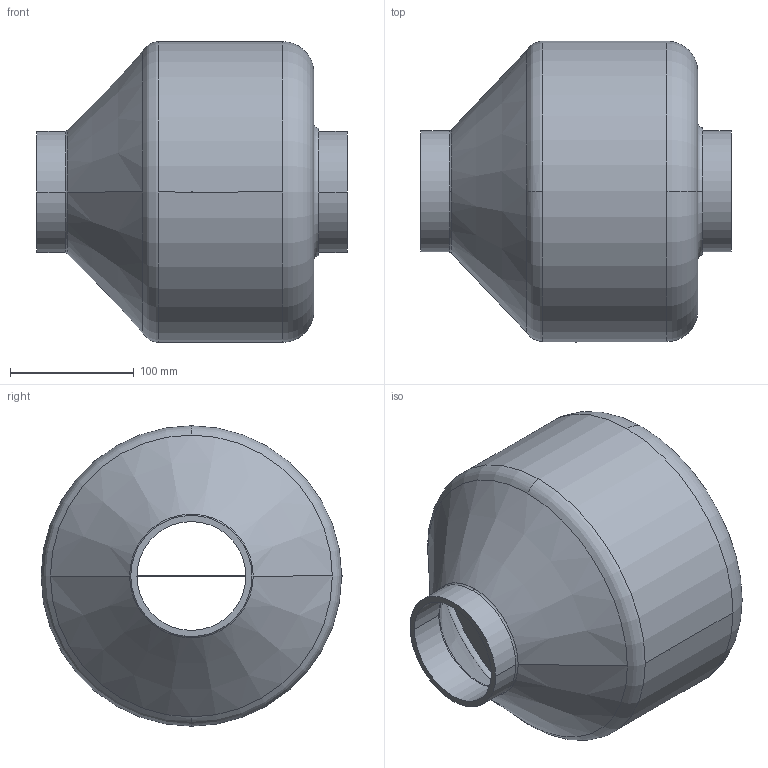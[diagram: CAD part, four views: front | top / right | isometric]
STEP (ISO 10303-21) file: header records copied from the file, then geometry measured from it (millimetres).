
FILE_DESCRIPTION(('STEP AP214'),'1');
FILE_NAME('5145880000.stp','2019-05-13T14:54:53',('TraceParts'),('TraceParts S.A.'),'Spatial InterOp 3D',' ',' ');
FILE_SCHEMA(('AUTOMOTIVE_DESIGN { 1 0 10303 214 1 1 1 1 }'));
Length unit declared in the file: millimetre
Products named in the file (1): 5145880000
Bounding box: 251 x 244 x 243 mm (x, y, z)
Volume: 1633337.1 mm3; surface area: 613366 mm2
Topology: 1 solids, 1 shells, 107 faces, 298 edges, 199 vertices
Faces by surface type: plane 59, cylinder 28, torus 16, cone 4
Entity records: 4589 total; most frequent: CARTESIAN_POINT 806, DIRECTION 615, ORIENTED_EDGE 596, EDGE_CURVE 298, AXIS2_PLACEMENT_3D 218, VERTEX_POINT 199, LINE 179, VECTOR 179
